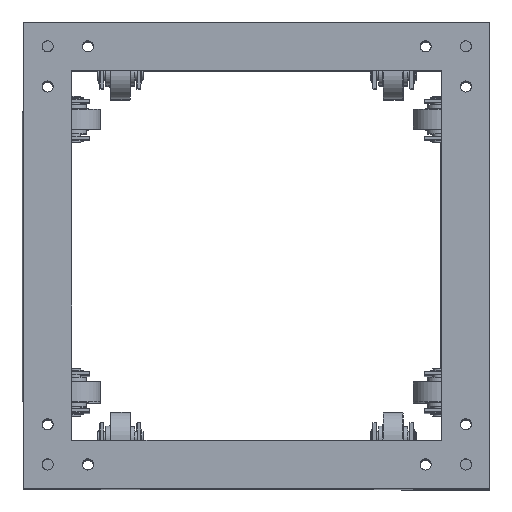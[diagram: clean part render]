
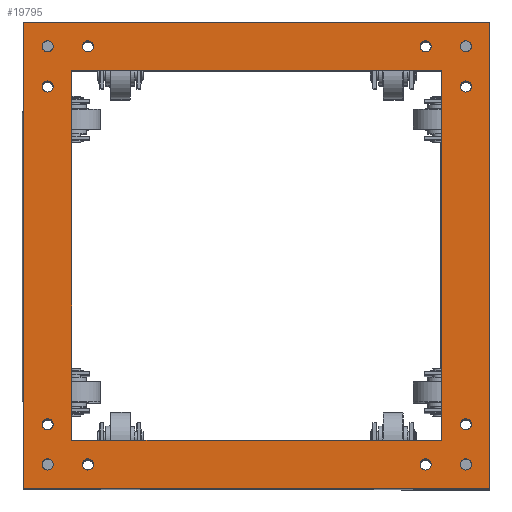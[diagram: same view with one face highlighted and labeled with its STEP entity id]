
A CAD part, top view. The second image highlights one B-rep face of the part: STEP entity #19795.
In plain terms, the highlighted planar face has unit normal (0, 0, 1).
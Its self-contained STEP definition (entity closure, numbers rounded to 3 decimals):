
#1192=LINE('',#31571,#2256);
#1195=LINE('',#32701,#2259);
#1198=LINE('',#32705,#2262);
#1199=LINE('',#33255,#2263);
#1200=LINE('',#33260,#2264);
#1201=LINE('',#33262,#2265);
#1202=LINE('',#33264,#2266);
#1203=LINE('',#33265,#2267);
#2256=VECTOR('',#25620,460.);
#2259=VECTOR('',#25811,460.);
#2262=VECTOR('',#25816,460.);
#2263=VECTOR('',#25895,460.);
#2264=VECTOR('',#25900,580.);
#2265=VECTOR('',#25901,580.);
#2266=VECTOR('',#25902,580.);
#2267=VECTOR('',#25903,580.);
#3490=FACE_BOUND('',#6323,.T.);
#3491=FACE_BOUND('',#6324,.T.);
#3492=FACE_BOUND('',#6325,.T.);
#3493=FACE_BOUND('',#6326,.T.);
#3494=FACE_BOUND('',#6327,.T.);
#3495=FACE_BOUND('',#6328,.T.);
#3496=FACE_BOUND('',#6329,.T.);
#3497=FACE_BOUND('',#6330,.T.);
#3498=FACE_BOUND('',#6331,.T.);
#3499=FACE_BOUND('',#6332,.T.);
#3500=FACE_BOUND('',#6333,.T.);
#3501=FACE_BOUND('',#6334,.T.);
#3502=FACE_BOUND('',#6335,.T.);
#4671=FACE_OUTER_BOUND('',#6322,.T.);
#6322=EDGE_LOOP('',(#15074,#15075,#15076,#15077));
#6323=EDGE_LOOP('',(#15078,#15079,#15080,#15081));
#6324=EDGE_LOOP('',(#15082));
#6325=EDGE_LOOP('',(#15083));
#6326=EDGE_LOOP('',(#15084));
#6327=EDGE_LOOP('',(#15085));
#6328=EDGE_LOOP('',(#15086));
#6329=EDGE_LOOP('',(#15087));
#6330=EDGE_LOOP('',(#15088));
#6331=EDGE_LOOP('',(#15089));
#6332=EDGE_LOOP('',(#15090));
#6333=EDGE_LOOP('',(#15091));
#6334=EDGE_LOOP('',(#15092));
#6335=EDGE_LOOP('',(#15093));
#7826=CIRCLE('',#21438,6.92);
#7827=CIRCLE('',#21440,6.92);
#7828=CIRCLE('',#21442,6.92);
#7850=CIRCLE('',#21493,6.92);
#7851=CIRCLE('',#21495,6.92);
#7852=CIRCLE('',#21497,6.92);
#7865=CIRCLE('',#21532,6.92);
#7866=CIRCLE('',#21534,6.92);
#7867=CIRCLE('',#21536,6.92);
#7879=CIRCLE('',#21572,6.92);
#7880=CIRCLE('',#21574,6.92);
#7881=CIRCLE('',#21576,6.92);
#9322=VERTEX_POINT('',#31558);
#9323=VERTEX_POINT('',#31561);
#9324=VERTEX_POINT('',#31564);
#9325=VERTEX_POINT('',#31568);
#9326=VERTEX_POINT('',#31570);
#9366=VERTEX_POINT('',#32138);
#9367=VERTEX_POINT('',#32141);
#9368=VERTEX_POINT('',#32144);
#9399=VERTEX_POINT('',#32688);
#9400=VERTEX_POINT('',#32691);
#9401=VERTEX_POINT('',#32694);
#9402=VERTEX_POINT('',#32698);
#9403=VERTEX_POINT('',#32700);
#9433=VERTEX_POINT('',#33245);
#9434=VERTEX_POINT('',#33248);
#9435=VERTEX_POINT('',#33251);
#9436=VERTEX_POINT('',#33258);
#9437=VERTEX_POINT('',#33259);
#9438=VERTEX_POINT('',#33261);
#9439=VERTEX_POINT('',#33263);
#11446=EDGE_CURVE('',#9322,#9322,#7826,.T.);
#11447=EDGE_CURVE('',#9323,#9323,#7827,.T.);
#11448=EDGE_CURVE('',#9324,#9324,#7828,.T.);
#11450=EDGE_CURVE('',#9326,#9325,#1192,.T.);
#11499=EDGE_CURVE('',#9366,#9366,#7850,.T.);
#11500=EDGE_CURVE('',#9367,#9367,#7851,.T.);
#11501=EDGE_CURVE('',#9368,#9368,#7852,.T.);
#11540=EDGE_CURVE('',#9399,#9399,#7865,.T.);
#11541=EDGE_CURVE('',#9400,#9400,#7866,.T.);
#11542=EDGE_CURVE('',#9401,#9401,#7867,.T.);
#11544=EDGE_CURVE('',#9403,#9402,#1195,.T.);
#11547=EDGE_CURVE('',#9325,#9403,#1198,.T.);
#11585=EDGE_CURVE('',#9433,#9433,#7879,.T.);
#11586=EDGE_CURVE('',#9434,#9434,#7880,.T.);
#11587=EDGE_CURVE('',#9435,#9435,#7881,.T.);
#11588=EDGE_CURVE('',#9402,#9326,#1199,.T.);
#11589=EDGE_CURVE('',#9436,#9437,#1200,.T.);
#11590=EDGE_CURVE('',#9437,#9438,#1201,.T.);
#11591=EDGE_CURVE('',#9438,#9439,#1202,.T.);
#11592=EDGE_CURVE('',#9439,#9436,#1203,.T.);
#15074=ORIENTED_EDGE('',*,*,#11589,.T.);
#15075=ORIENTED_EDGE('',*,*,#11590,.T.);
#15076=ORIENTED_EDGE('',*,*,#11591,.T.);
#15077=ORIENTED_EDGE('',*,*,#11592,.T.);
#15078=ORIENTED_EDGE('',*,*,#11450,.T.);
#15079=ORIENTED_EDGE('',*,*,#11547,.T.);
#15080=ORIENTED_EDGE('',*,*,#11544,.T.);
#15081=ORIENTED_EDGE('',*,*,#11588,.T.);
#15082=ORIENTED_EDGE('',*,*,#11542,.T.);
#15083=ORIENTED_EDGE('',*,*,#11541,.T.);
#15084=ORIENTED_EDGE('',*,*,#11540,.T.);
#15085=ORIENTED_EDGE('',*,*,#11499,.T.);
#15086=ORIENTED_EDGE('',*,*,#11500,.T.);
#15087=ORIENTED_EDGE('',*,*,#11501,.T.);
#15088=ORIENTED_EDGE('',*,*,#11446,.T.);
#15089=ORIENTED_EDGE('',*,*,#11447,.T.);
#15090=ORIENTED_EDGE('',*,*,#11448,.T.);
#15091=ORIENTED_EDGE('',*,*,#11585,.T.);
#15092=ORIENTED_EDGE('',*,*,#11586,.T.);
#15093=ORIENTED_EDGE('',*,*,#11587,.T.);
#17668=PLANE('',#21580);
#19795=ADVANCED_FACE('',(#4671,#3490,#3491,#3492,#3493,#3494,#3495,#3496,
#3497,#3498,#3499,#3500,#3501,#3502),#17668,.T.);
#21438=AXIS2_PLACEMENT_3D('',#31559,#25605,#25606);
#21440=AXIS2_PLACEMENT_3D('',#31562,#25609,#25610);
#21442=AXIS2_PLACEMENT_3D('',#31565,#25613,#25614);
#21493=AXIS2_PLACEMENT_3D('',#32139,#25718,#25719);
#21495=AXIS2_PLACEMENT_3D('',#32142,#25722,#25723);
#21497=AXIS2_PLACEMENT_3D('',#32145,#25726,#25727);
#21532=AXIS2_PLACEMENT_3D('',#32689,#25796,#25797);
#21534=AXIS2_PLACEMENT_3D('',#32692,#25800,#25801);
#21536=AXIS2_PLACEMENT_3D('',#32695,#25804,#25805);
#21572=AXIS2_PLACEMENT_3D('',#33246,#25881,#25882);
#21574=AXIS2_PLACEMENT_3D('',#33249,#25885,#25886);
#21576=AXIS2_PLACEMENT_3D('',#33252,#25889,#25890);
#21580=AXIS2_PLACEMENT_3D('',#33257,#25898,#25899);
#25605=DIRECTION('center_axis',(0.,0.,-1.));
#25606=DIRECTION('ref_axis',(0.,1.,0.));
#25609=DIRECTION('center_axis',(0.,0.,-1.));
#25610=DIRECTION('ref_axis',(0.,1.,0.));
#25613=DIRECTION('center_axis',(0.,0.,-1.));
#25614=DIRECTION('ref_axis',(0.,1.,0.));
#25620=DIRECTION('',(-1.,0.,0.));
#25718=DIRECTION('center_axis',(0.,0.,-1.));
#25719=DIRECTION('ref_axis',(0.,-1.,0.));
#25722=DIRECTION('center_axis',(0.,0.,-1.));
#25723=DIRECTION('ref_axis',(0.,-1.,0.));
#25726=DIRECTION('center_axis',(0.,0.,-1.));
#25727=DIRECTION('ref_axis',(0.,-1.,0.));
#25796=DIRECTION('center_axis',(0.,0.,-1.));
#25797=DIRECTION('ref_axis',(1.,0.,0.));
#25800=DIRECTION('center_axis',(0.,0.,-1.));
#25801=DIRECTION('ref_axis',(1.,0.,0.));
#25804=DIRECTION('center_axis',(0.,0.,-1.));
#25805=DIRECTION('ref_axis',(1.,0.,0.));
#25811=DIRECTION('',(1.,0.,0.));
#25816=DIRECTION('',(0.,1.,0.));
#25881=DIRECTION('center_axis',(0.,0.,
-1.));
#25882=DIRECTION('ref_axis',(-1.,0.,0.));
#25885=DIRECTION('center_axis',(0.,0.,
-1.));
#25886=DIRECTION('ref_axis',(-1.,0.,0.));
#25889=DIRECTION('center_axis',(0.,0.,
-1.));
#25890=DIRECTION('ref_axis',(-1.,0.,0.));
#25895=DIRECTION('',(0.,-1.,0.));
#25898=DIRECTION('center_axis',(0.,0.,
1.));
#25899=DIRECTION('ref_axis',(-1.,0.,0.));
#25900=DIRECTION('',(1.,0.,0.));
#25901=DIRECTION('',(0.,1.,0.));
#25902=DIRECTION('',(-1.,0.,0.));
#25903=DIRECTION('',(0.,-1.,0.));
#31558=CARTESIAN_POINT('',(30.,-543.08,60.));
#31559=CARTESIAN_POINT('Origin',(30.,-550.,60.));
#31561=CARTESIAN_POINT('',(30.,-493.08,60.));
#31562=CARTESIAN_POINT('Origin',(30.,-500.,60.));
#31564=CARTESIAN_POINT('',(80.,-543.08,60.));
#31565=CARTESIAN_POINT('Origin',(80.,-550.,60.));
#31568=CARTESIAN_POINT('',(60.,-520.,60.));
#31570=CARTESIAN_POINT('',(520.,-520.,60.));
#31571=CARTESIAN_POINT('',(470.,-520.,60.));
#32138=CARTESIAN_POINT('',(550.,-36.92,60.));
#32139=CARTESIAN_POINT('Origin',(550.,-30.,60.));
#32141=CARTESIAN_POINT('',(550.,-86.92,60.));
#32142=CARTESIAN_POINT('Origin',(550.,-80.,60.));
#32144=CARTESIAN_POINT('',(500.,-36.92,60.));
#32145=CARTESIAN_POINT('Origin',(500.,-30.,60.));
#32688=CARTESIAN_POINT('',(36.92,-30.,60.));
#32689=CARTESIAN_POINT('Origin',(30.,-30.,60.));
#32691=CARTESIAN_POINT('',(86.92,-30.,60.));
#32692=CARTESIAN_POINT('Origin',(80.,-30.,60.));
#32694=CARTESIAN_POINT('',(36.92,-80.,60.));
#32695=CARTESIAN_POINT('Origin',(30.,-80.,60.));
#32698=CARTESIAN_POINT('',(520.,-60.,60.));
#32700=CARTESIAN_POINT('',(60.,-60.,60.));
#32701=CARTESIAN_POINT('',(110.,-60.,60.));
#32705=CARTESIAN_POINT('',(60.,-470.,60.));
#33245=CARTESIAN_POINT('',(543.08,-550.,60.));
#33246=CARTESIAN_POINT('Origin',(550.,-550.,60.));
#33248=CARTESIAN_POINT('',(493.08,-550.,60.));
#33249=CARTESIAN_POINT('Origin',(500.,-550.,60.));
#33251=CARTESIAN_POINT('',(543.08,-500.,60.));
#33252=CARTESIAN_POINT('Origin',(550.,-500.,60.));
#33255=CARTESIAN_POINT('',(520.,-110.,60.));
#33257=CARTESIAN_POINT('Origin',(530.682,-530.682,60.));
#33258=CARTESIAN_POINT('',(0.,-580.,60.));
#33259=CARTESIAN_POINT('',(580.,-580.,60.));
#33260=CARTESIAN_POINT('',(110.,-580.,60.));
#33261=CARTESIAN_POINT('',(580.,0.,60.));
#33262=CARTESIAN_POINT('',(580.,-470.,60.));
#33263=CARTESIAN_POINT('',(0.,0.,60.));
#33264=CARTESIAN_POINT('',(470.,0.,60.));
#33265=CARTESIAN_POINT('',(0.,-110.,60.));
